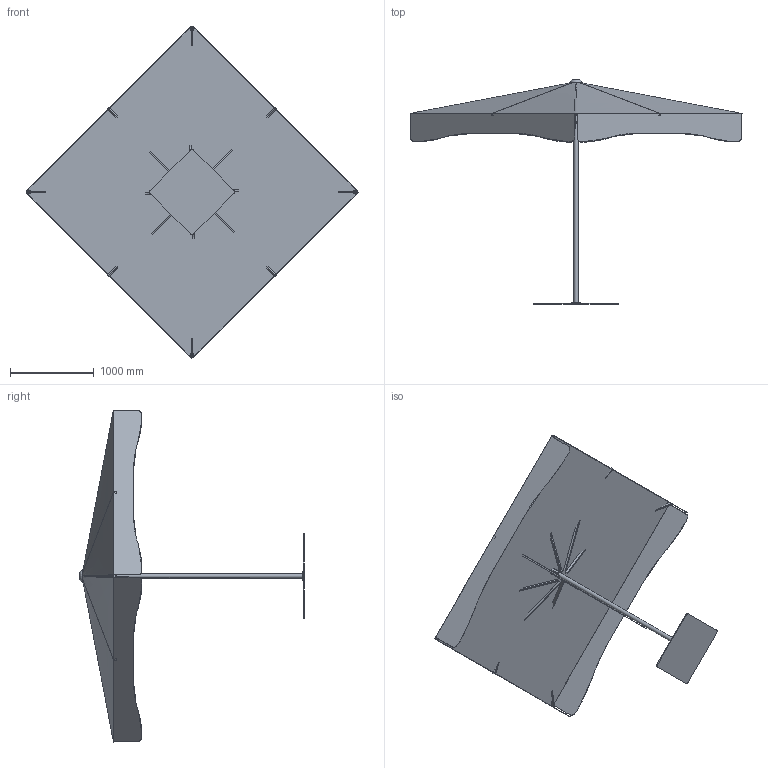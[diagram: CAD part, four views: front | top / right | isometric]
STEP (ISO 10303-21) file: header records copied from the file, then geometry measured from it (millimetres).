
FILE_DESCRIPTION(/* description */ (''),/* implementation_level */ '2;1');
FILE_NAME(/* name */ 'AMARCORD 300X300.stp',/* time_stamp */ '2025-11-17T11:33:59+01:00',/* author */ ('tecnico3'),/* organization */ (''),/* preprocessor_version */ 'ST-DEVELOPER v20',/* originating_system */ 'Autodesk Inventor 2024',/* authorisation */ '');
FILE_SCHEMA (('AUTOMOTIVE_DESIGN { 1 0 10303 214 3 1 1 }'));
Length unit declared in the file: millimetre
Products named in the file (1): EALLU003500_Semplifica_1
Bounding box: 3959.17 x 2677.4 x 3959.17 mm (x, y, z)
Volume: 1029577278.8 mm3; surface area: 25736276.8 mm2
Topology: 25 solids, 25 shells, 308 faces, 760 edges, 499 vertices
Faces by surface type: plane 183, cylinder 104, bspline 21
Full cylindrical faces by diameter (mm): 3.5 x1, 50 x1, 96 x1, 148 x1
Entity records: 11212 total; most frequent: CARTESIAN_POINT 3634, ORIENTED_EDGE 1512, DIRECTION 1412, EDGE_CURVE 756, VERTEX_POINT 499, AXIS2_PLACEMENT_3D 480, LINE 452, VECTOR 452
